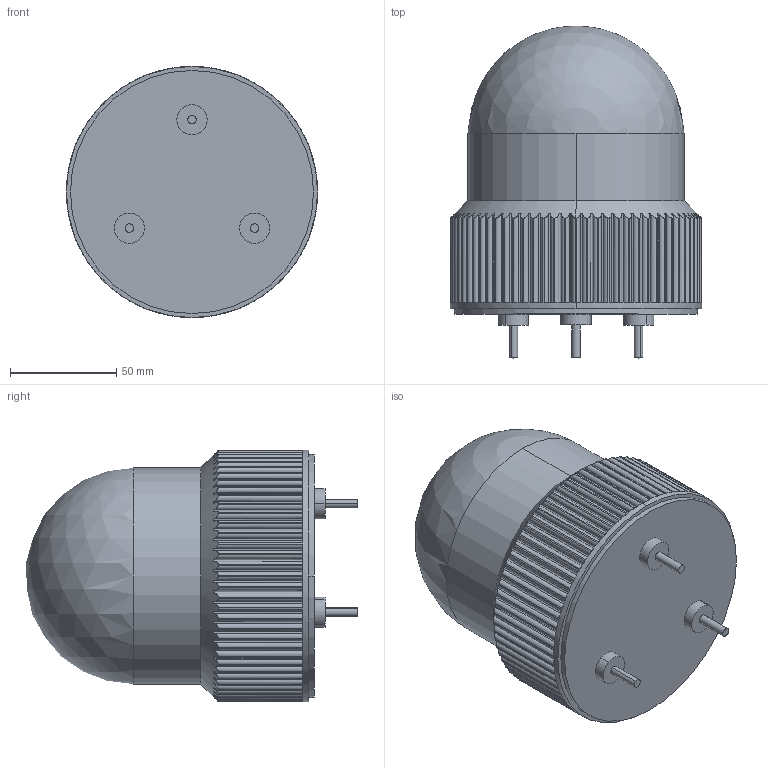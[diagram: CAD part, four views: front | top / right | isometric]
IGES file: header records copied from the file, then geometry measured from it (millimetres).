
Global section: file name: No Iges File Name specified; native system: AutoDesk Inventor R5.0; preprocessor: AutoDesk Inventor Iges Exporter R5.0; author: No Author specified; organization: No Organization specified; date: 20030119.154850; units: inch
Bounding box: 118.11 x 156.09 x 118.11 mm (x, y, z)
Volume: 1093397.5 mm3; surface area: 67145.4 mm2
Topology: 1 solids, 1 shells, 318 faces, 996 edges, 685 vertices
Faces by surface type: cylinder 162, plane 80, revolution 73, cone 2, sphere 1
